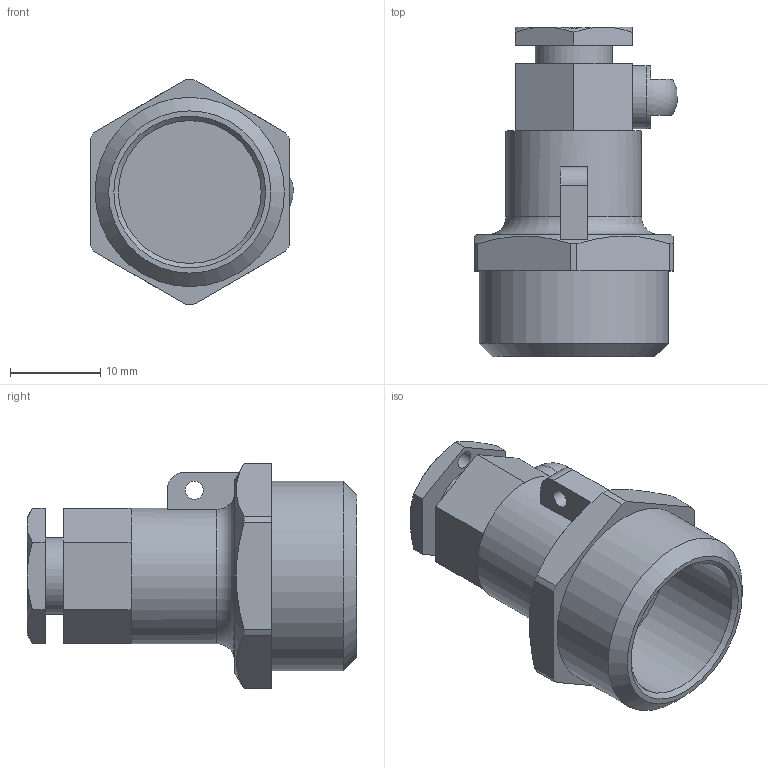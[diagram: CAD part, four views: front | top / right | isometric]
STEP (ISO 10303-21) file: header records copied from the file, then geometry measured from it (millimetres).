
FILE_DESCRIPTION(('STEP AP203'), '1');
FILE_NAME('覆.302638.016.000 捘 - VTr.424.N.D604', '2024-08-08T11:43:34', ('Boss'), (''), 'C3D Converter', 'C3D Toolkit', '');
FILE_SCHEMA(('CONFIG_CONTROL_DESIGN'));
Length unit declared in the file: millimetre
Products named in the file (1): ВР.302638.016.000 СБ
Bounding box: 22.5 x 36.5 x 25 mm (x, y, z)
Volume: 6332.6 mm3; surface area: 3622 mm2
Topology: 1 solids, 1 shells, 74 faces, 184 edges, 115 vertices
Faces by surface type: plane 46, cylinder 16, cone 10, sphere 1, torus 1
Full cylindrical faces by diameter (mm): 2 x3, 5.3 x1, 7 x1, 8.5 x1, 15 x1, 15.8 x1, 20.955 x1
Entity records: 2880 total; most frequent: CARTESIAN_POINT 1148, DIRECTION 354, ORIENTED_EDGE 336, EDGE_CURVE 168, AXIS2_PLACEMENT_3D 141, VERTEX_POINT 114, EDGE_LOOP 98, FACE_BOUND 78
